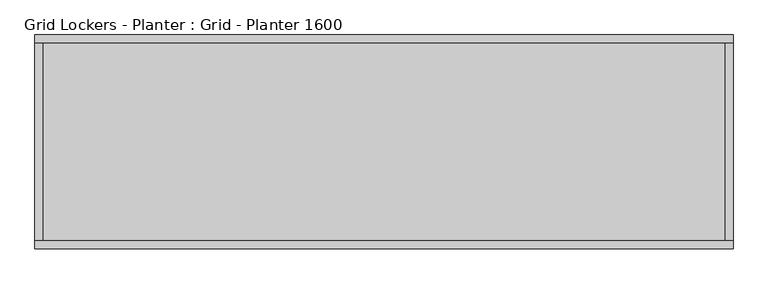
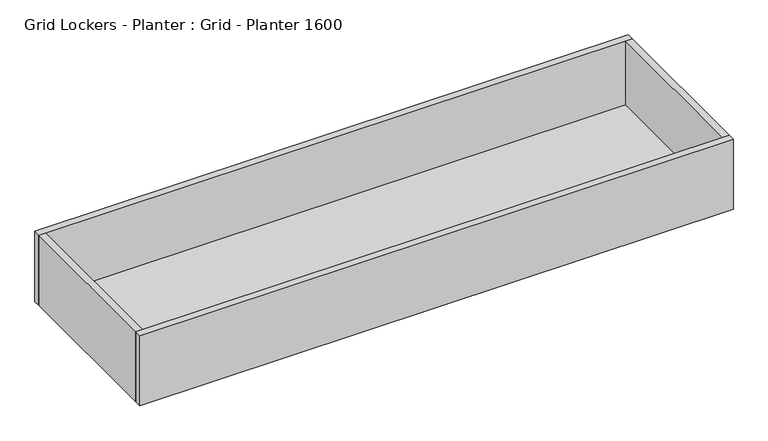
"""IFC4 building model written with IfcOpenShell, lengths in millimetres: furniture geometry, Grid Lockers - Planter : Grid - Planter 1600."""

import ifcopenshell
import ifcopenshell.guid

model = None  # the IFC model being written
_history = None  # IfcOwnerHistory: only IFC2X3 demands one
_inside = {}  # id of a spatial element -> (the spatial element, [elements in it])
_under = {}  # id of a project, library or spatial element -> (it, [spatial elements below it])
_declared = {}  # id of a project -> (the project, [libraries it declares])
_typed = {}  # id of a type object -> (the type object, [elements of that type])
_made_of = {}  # id of a material, layer set ... -> (it, [elements and type objects made of it])


def new_model(schema):
    """Start an empty IFC model of exactly this schema.

    Asked for "IFC4X3", IfcOpenShell would pick the latest addendum, in which some entities
    have other attributes; the version numbers below select the first issue.
    IFC2X3 requires an IfcOwnerHistory on every rooted entity: one is made here for all.
    """
    global model, _history
    if schema == "IFC4X3":
        model = ifcopenshell.file(schema_version=(4, 3, 0, 0))
    else:
        model = ifcopenshell.file(schema=schema)
    _inside.clear()
    _under.clear()
    _declared.clear()
    _typed.clear()
    _made_of.clear()
    _history = None
    if model.schema == "IFC2X3":
        org = make("IfcOrganization", Name="unknown")
        user = make(
            "IfcPersonAndOrganization",
            ThePerson=make("IfcPerson", FamilyName="unknown"),
            TheOrganization=org,
        )
        app = make(
            "IfcApplication",
            ApplicationDeveloper=org,
            Version="unknown",
            ApplicationFullName="unknown",
            ApplicationIdentifier="unknown",
        )
        _history = make(
            "IfcOwnerHistory",
            OwningUser=user,
            OwningApplication=app,
            ChangeAction="ADDED",
            CreationDate=0,
        )
    return model


def make(cls, **values):
    """One entity of the class cls with the attributes given. An attribute that is None is left unset."""
    return model.create_entity(
        cls, **{name: value for name, value in values.items() if value is not None}
    )


def rooted(cls, **values):
    """An entity with a GlobalId (a new one), such as an element, a storey or a relation."""
    return make(cls, GlobalId=ifcopenshell.guid.new(), OwnerHistory=_history, **values)


def si_unit(unit_type, name, prefix=None):
    """IfcSIUnit, for example si_unit("LENGTHUNIT", "METRE", prefix="MILLI")."""
    return make("IfcSIUnit", UnitType=unit_type, Prefix=prefix, Name=name)


def assignment(units):
    """IfcUnitAssignment: the units of a project."""
    return None if units is None else make("IfcUnitAssignment", Units=units)


def point(xyz):
    """IfcCartesianPoint."""
    return None if xyz is None else make("IfcCartesianPoint", Coordinates=xyz)


def direction(xyz):
    """IfcDirection."""
    return None if xyz is None else make("IfcDirection", DirectionRatios=xyz)


def frame(location, z_axis=None, x_axis=None):
    """IfcAxis2Placement3D, a coordinate frame: its origin and axes. An axis left out is left unset."""
    return make(
        "IfcAxis2Placement3D",
        Location=point(location),
        Axis=direction(z_axis),
        RefDirection=direction(x_axis),
    )


def origin():
    """The frame at (0, 0, 0) with its axes left unset."""
    return frame((0.0, 0.0, 0.0))


def origin_with_axes():
    """The frame at (0, 0, 0) with the z axis (0, 0, 1) and the x axis (1, 0, 0) written out."""
    return frame((0.0, 0.0, 0.0), z_axis=(0.0, 0.0, 1.0), x_axis=(1.0, 0.0, 0.0))


def place(relative_to, where):
    """IfcLocalPlacement: puts the frame where relative to a parent placement (None: the world)."""
    return make(
        "IfcLocalPlacement", PlacementRelTo=relative_to, RelativePlacement=where
    )


def context(
    kind, dimensions, precision=None, world=None, true_north=None, identifier=None
):
    """IfcGeometricRepresentationContext, for example the 3D "Model" context."""
    return make(
        "IfcGeometricRepresentationContext",
        ContextIdentifier=identifier,
        ContextType=kind,
        CoordinateSpaceDimension=dimensions,
        Precision=precision,
        WorldCoordinateSystem=world,
        TrueNorth=true_north,
    )


def project(units=None, contexts=None):
    """IfcProject with its units and contexts."""
    return rooted(
        "IfcProject",
        Name="project",
        RepresentationContexts=contexts,
        UnitsInContext=assignment(units),
    )


def spatial(cls, under=None, at=None, **own):
    """A site, building, storey or space (cls), placed at a placement, below another one or the project."""
    s = rooted(cls, ObjectPlacement=at, **own)
    if under is not None:
        _under.setdefault(under.id(), (under, []))[1].append(s)
    return s


def polyline(points):
    """IfcPolyline through the points."""
    return make("IfcPolyline", Points=[point(p) for p in points])


def outline(outer, holes=None, kind="AREA"):
    """IfcArbitraryClosedProfileDef: a profile drawn as a closed curve; with holes, ...WithVoids."""
    if holes is None:
        return make("IfcArbitraryClosedProfileDef", ProfileType=kind, OuterCurve=outer)
    return make(
        "IfcArbitraryProfileDefWithVoids",
        ProfileType=kind,
        OuterCurve=outer,
        InnerCurves=holes,
    )


def extrude(swept, where, along, depth):
    """IfcExtrudedAreaSolid: the profile swept, set in the frame where, extruded along a direction by depth."""
    return make(
        "IfcExtrudedAreaSolid",
        SweptArea=swept,
        Position=where,
        ExtrudedDirection=direction(along),
        Depth=depth,
    )


def shape(context_of_items, identifier, shape_type, items):
    """IfcShapeRepresentation: the items that make up one representation, for example the "Body"."""
    return make(
        "IfcShapeRepresentation",
        ContextOfItems=context_of_items,
        RepresentationIdentifier=identifier,
        RepresentationType=shape_type,
        Items=items,
    )


def source(mapping_origin, context_of_items, identifier, shape_type, items):
    """IfcRepresentationMap: a shape defined once, which mapped items show again and again."""
    return make(
        "IfcRepresentationMap",
        MappingOrigin=mapping_origin,
        MappedRepresentation=shape(context_of_items, identifier, shape_type, items),
    )


def transform(
    local_origin,
    x_axis=None,
    y_axis=None,
    z_axis=None,
    scale=None,
    scale2=None,
    scale3=None,
    uniform=True,
):
    """IfcCartesianTransformationOperator3D, or its non-uniform kind. x_axis, y_axis, z_axis: its Axis1, 2, 3."""
    if uniform:
        return make(
            "IfcCartesianTransformationOperator3D",
            Axis1=direction(x_axis),
            Axis2=direction(y_axis),
            LocalOrigin=point(local_origin),
            Scale=scale,
            Axis3=direction(z_axis),
        )
    return make(
        "IfcCartesianTransformationOperator3DnonUniform",
        Axis1=direction(x_axis),
        Axis2=direction(y_axis),
        LocalOrigin=point(local_origin),
        Scale=scale,
        Axis3=direction(z_axis),
        Scale2=scale2,
        Scale3=scale3,
    )


def mapped(mapping_source, mapping_target):
    """IfcMappedItem: shows the shape of a source again, moved by a transform."""
    return make(
        "IfcMappedItem", MappingSource=mapping_source, MappingTarget=mapping_target
    )


def made_of(thing, what):
    """Note that an element or type object is made of a material, layer set ...; save() writes the relation."""
    if what is not None:
        _made_of.setdefault(what.id(), (what, []))[1].append(thing)
    return thing


def element(
    cls,
    number,
    at=None,
    inside=None,
    cuts=None,
    type_object=None,
    material=None,
    context=None,
    identifier="Body",
    shape_type=None,
    held_by="IfcProductDefinitionShape",
    body=None,
    shapes=None,
    **own,
):
    """One element of the class cls, such as IfcWall. Its Tag is "e" and its number.

    at: its placement. inside: the storey or other place that contains it. cuts: it is an
    opening in that element (IfcRelVoidsElement). A single representation is given by context,
    identifier, shape_type and body (its items); several are given by shapes. held_by: the class
    of the entity that holds the representations. save() writes the other relations.
    """
    e = rooted(cls, Tag="e%d" % number, ObjectPlacement=at, **own)
    if body is not None:
        shapes = [shape(context, identifier, shape_type, body)]
    if shapes is not None:
        e.Representation = make(held_by, Representations=shapes)
    if inside is not None:
        _inside.setdefault(inside.id(), (inside, []))[1].append(e)
    if cuts is not None:
        rooted(
            "IfcRelVoidsElement", RelatingBuildingElement=cuts, RelatedOpeningElement=e
        )
    if type_object is not None:
        _typed.setdefault(type_object.id(), (type_object, []))[1].append(e)
    return made_of(e, material)


def aggregate(whole, parts):
    """IfcRelAggregates: a whole, such as a stair, and the parts it consists of."""
    return rooted("IfcRelAggregates", RelatingObject=whole, RelatedObjects=parts)


def save(model, path):
    """Write the relations noted so far, then the file.

    IfcRelAggregates (storeys below a building ...), IfcRelContainedInSpatialStructure (elements
    in a storey), IfcRelDefinesByType, IfcRelAssociatesMaterial and IfcRelDeclares: one each for
    every whole, place, type object, material and project.
    """
    for whole, parts in _under.values():
        aggregate(whole, parts)
    for where, things in _inside.values():
        rooted(
            "IfcRelContainedInSpatialStructure",
            RelatedElements=things,
            RelatingStructure=where,
        )
    for kind, things in _typed.values():
        rooted("IfcRelDefinesByType", RelatedObjects=things, RelatingType=kind)
    for what, things in _made_of.values():
        rooted("IfcRelAssociatesMaterial", RelatedObjects=things, RelatingMaterial=what)
    for by, libraries in _declared.values():
        rooted("IfcRelDeclares", RelatingContext=by, RelatedDefinitions=libraries)
    model.write(path)


def grid_lockers_planter_grid_planter_1600_f84f5458(model_context):
    return source(origin(), model_context, "Body", "SweptSolid", [
        extrude(outline(polyline([(0.0, -18.0), (0.0, 0.0), (1600.0, 0.0), (1600.0, -18.0), (0.0, -18.0)])), origin_with_axes(), (0.0, 0.0, 1.0), 200.0),
        extrude(outline(polyline([(0.0, -490.0), (0.0, -472.0), (1600.0, -472.0), (1600.0, -490.0), (0.0, -490.0)])), origin_with_axes(), (0.0, 0.0, 1.0), 200.0),
        extrude(outline(polyline([(1582.0, -18.0), (1600.0, -18.0), (1600.0, -472.0), (1582.0, -472.0), (1582.0, -18.0)])), origin_with_axes(), (0.0, 0.0, 1.0), 200.0),
        extrude(outline(polyline([(0.0, -18.0), (18.0, -18.0), (18.0, -472.0), (0.0, -472.0), (0.0, -18.0)])), origin_with_axes(), (0.0, 0.0, 1.0), 200.0),
        extrude(outline(polyline([(1582.0, -472.0), (18.0, -472.0), (18.0, -18.0), (1582.0, -18.0), (1582.0, -472.0)])), origin_with_axes(), (0.0, 0.0, 1.0), 18.0),
    ])


if __name__ == "__main__":
    model = new_model("IFC4")
    model_context = context("Model", 3, world=origin())
    ifc_project = project(units=[si_unit("LENGTHUNIT", "METRE", prefix="MILLI")], contexts=[model_context])
    site = spatial("IfcSite", under=ifc_project)
    building = spatial("IfcBuilding", under=site)
    placement = place(None, origin())
    grid_lockers_planter_grid_planter_1600_shape = grid_lockers_planter_grid_planter_1600_f84f5458(model_context)
    element("IfcFurniture", 1, ObjectType="Grid Lockers - Planter : Grid - Planter 1600", at=placement, inside=building, context=model_context, shape_type="MappedRepresentation", body=[
        mapped(grid_lockers_planter_grid_planter_1600_shape, transform((0.0, 0.0, 0.0), x_axis=(1.0, 0.0, 0.0), y_axis=(0.0, 1.0, 0.0), z_axis=(0.0, 0.0, 1.0))),
    ])
    save(model, "model.ifc")
